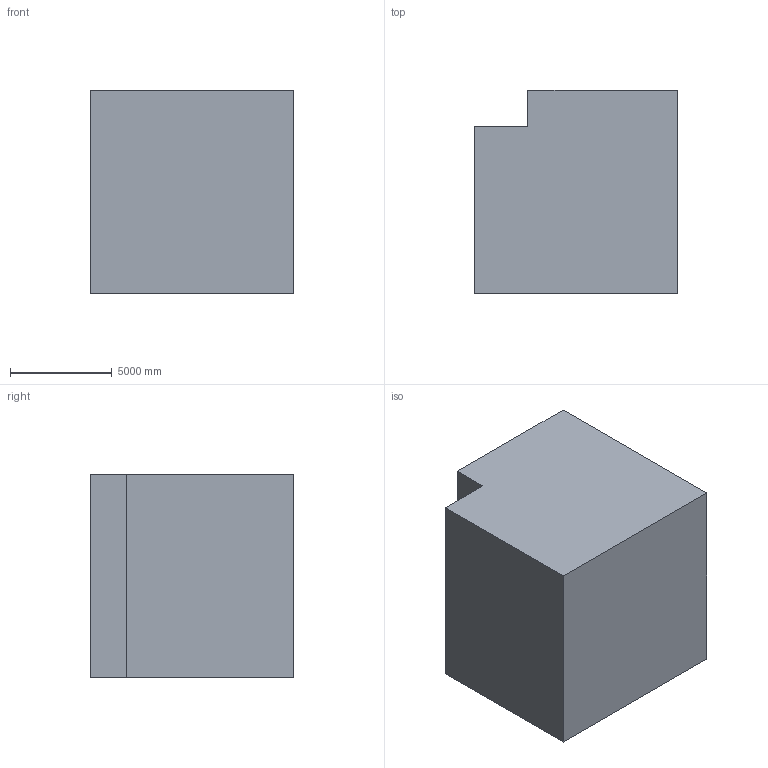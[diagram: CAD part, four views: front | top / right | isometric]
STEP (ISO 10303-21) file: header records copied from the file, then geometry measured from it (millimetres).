
FILE_DESCRIPTION (( 'STEP AP203' ), '1' );
FILE_NAME ('228.STEP', '2022-09-07T12:21:50', ( 'user' ), ( '' ), 'SwSTEP 2.0', 'SolidWorks 2021', '' );
FILE_SCHEMA (( 'CONFIG_CONTROL_DESIGN' ));
Length unit declared in the file: centimetre
Products named in the file (1): 228
Bounding box: 10000 x 10000 x 10000 mm (x, y, z)
Volume: 907618202613.4 mm3; surface area: 648464403.3 mm2
Topology: 1 solids, 1 shells, 11 faces, 24 edges, 16 vertices
Faces by surface type: plane 9, cylinder 2
Entity records: 379 total; most frequent: DIRECTION 52, CARTESIAN_POINT 52, ORIENTED_EDGE 48, EDGE_CURVE 24, VECTOR 20, LINE 20, AXIS2_PLACEMENT_3D 16, VERTEX_POINT 16
